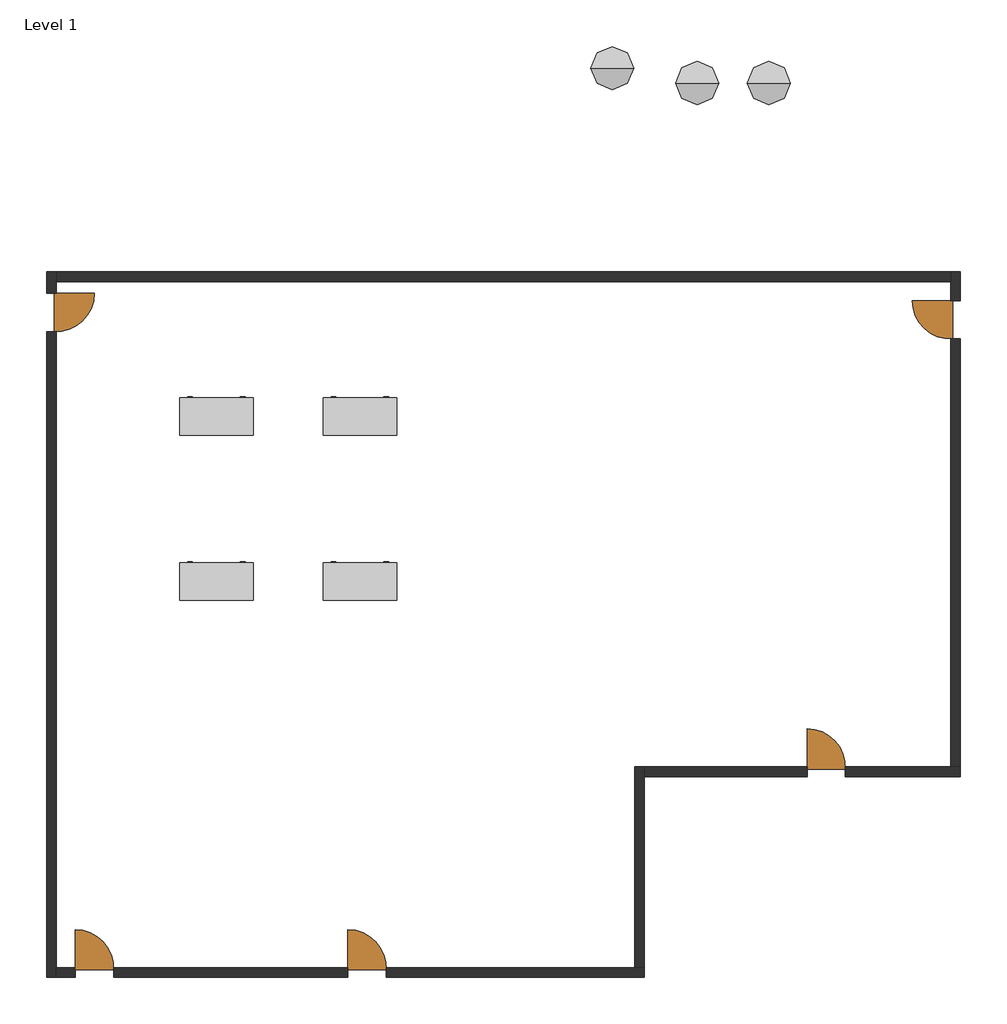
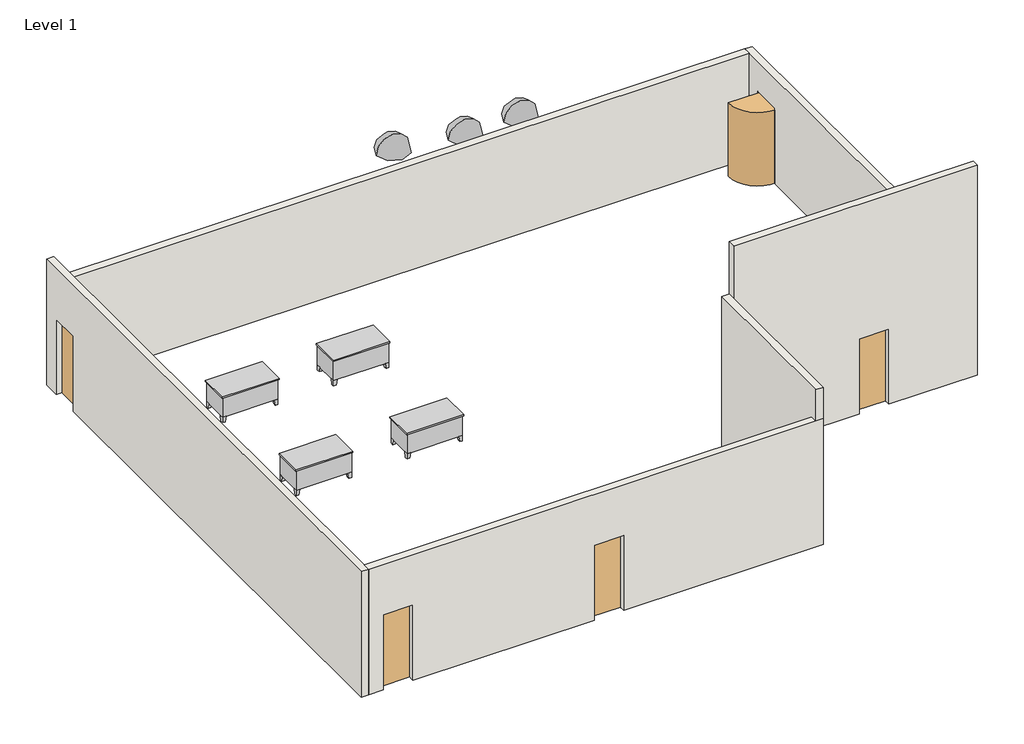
# One storey: 10 doors, 6 walls, 4 furniture elements, 3 geographic elements.
"""IFC4 building model written with IfcOpenShell, lengths in millimetres."""

import ifcopenshell
import ifcopenshell.guid

model = None  # the IFC model being written
_history = None  # IfcOwnerHistory: only IFC2X3 demands one
_inside = {}  # id of a spatial element -> (the spatial element, [elements in it])
_under = {}  # id of a project, library or spatial element -> (it, [spatial elements below it])
_declared = {}  # id of a project -> (the project, [libraries it declares])
_typed = {}  # id of a type object -> (the type object, [elements of that type])
_made_of = {}  # id of a material, layer set ... -> (it, [elements and type objects made of it])


def new_model(schema):
    """Start an empty IFC model of exactly this schema.

    Asked for "IFC4X3", IfcOpenShell would pick the latest addendum, in which some entities
    have other attributes; the version numbers below select the first issue.
    IFC2X3 requires an IfcOwnerHistory on every rooted entity: one is made here for all.
    """
    global model, _history
    if schema == "IFC4X3":
        model = ifcopenshell.file(schema_version=(4, 3, 0, 0))
    else:
        model = ifcopenshell.file(schema=schema)
    _inside.clear()
    _under.clear()
    _declared.clear()
    _typed.clear()
    _made_of.clear()
    _history = None
    if model.schema == "IFC2X3":
        org = make("IfcOrganization", Name="unknown")
        user = make(
            "IfcPersonAndOrganization",
            ThePerson=make("IfcPerson", FamilyName="unknown"),
            TheOrganization=org,
        )
        app = make(
            "IfcApplication",
            ApplicationDeveloper=org,
            Version="unknown",
            ApplicationFullName="unknown",
            ApplicationIdentifier="unknown",
        )
        _history = make(
            "IfcOwnerHistory",
            OwningUser=user,
            OwningApplication=app,
            ChangeAction="ADDED",
            CreationDate=0,
        )
    return model


def make(cls, **values):
    """One entity of the class cls with the attributes given. An attribute that is None is left unset."""
    return model.create_entity(
        cls, **{name: value for name, value in values.items() if value is not None}
    )


def rooted(cls, **values):
    """An entity with a GlobalId (a new one), such as an element, a storey or a relation."""
    return make(cls, GlobalId=ifcopenshell.guid.new(), OwnerHistory=_history, **values)


def si_unit(unit_type, name, prefix=None):
    """IfcSIUnit, for example si_unit("LENGTHUNIT", "METRE", prefix="MILLI")."""
    return make("IfcSIUnit", UnitType=unit_type, Prefix=prefix, Name=name)


def assignment(units):
    """IfcUnitAssignment: the units of a project."""
    return None if units is None else make("IfcUnitAssignment", Units=units)


def point(xyz):
    """IfcCartesianPoint."""
    return None if xyz is None else make("IfcCartesianPoint", Coordinates=xyz)


def direction(xyz):
    """IfcDirection."""
    return None if xyz is None else make("IfcDirection", DirectionRatios=xyz)


def frame(location, z_axis=None, x_axis=None):
    """IfcAxis2Placement3D, a coordinate frame: its origin and axes. An axis left out is left unset."""
    return make(
        "IfcAxis2Placement3D",
        Location=point(location),
        Axis=direction(z_axis),
        RefDirection=direction(x_axis),
    )


def frame_2d(location, x_axis=None):
    """IfcAxis2Placement2D, a coordinate frame in the plane: its origin and x axis."""
    return make(
        "IfcAxis2Placement2D", Location=point(location), RefDirection=direction(x_axis)
    )


def origin():
    """The frame at (0, 0, 0) with its axes left unset."""
    return frame((0.0, 0.0, 0.0))


def origin_with_axes():
    """The frame at (0, 0, 0) with the z axis (0, 0, 1) and the x axis (1, 0, 0) written out."""
    return frame((0.0, 0.0, 0.0), z_axis=(0.0, 0.0, 1.0), x_axis=(1.0, 0.0, 0.0))


def place(relative_to, where):
    """IfcLocalPlacement: puts the frame where relative to a parent placement (None: the world)."""
    return make(
        "IfcLocalPlacement", PlacementRelTo=relative_to, RelativePlacement=where
    )


def context(
    kind, dimensions, precision=None, world=None, true_north=None, identifier=None
):
    """IfcGeometricRepresentationContext, for example the 3D "Model" context."""
    return make(
        "IfcGeometricRepresentationContext",
        ContextIdentifier=identifier,
        ContextType=kind,
        CoordinateSpaceDimension=dimensions,
        Precision=precision,
        WorldCoordinateSystem=world,
        TrueNorth=true_north,
    )


def project(units=None, contexts=None):
    """IfcProject with its units and contexts."""
    return rooted(
        "IfcProject",
        Name="project",
        RepresentationContexts=contexts,
        UnitsInContext=assignment(units),
    )


def spatial(cls, under=None, at=None, **own):
    """A site, building, storey or space (cls), placed at a placement, below another one or the project."""
    s = rooted(cls, ObjectPlacement=at, **own)
    if under is not None:
        _under.setdefault(under.id(), (under, []))[1].append(s)
    return s


def polyline(points):
    """IfcPolyline through the points."""
    return make("IfcPolyline", Points=[point(p) for p in points])


def circle_curve(where, radius):
    """IfcCircle in the frame where."""
    return make("IfcCircle", Position=where, Radius=radius)


def ellipse_curve(where, semi_axis1, semi_axis2):
    """IfcEllipse in the frame where."""
    return make(
        "IfcEllipse", Position=where, SemiAxis1=semi_axis1, SemiAxis2=semi_axis2
    )


def trimmed(basis, trim1, trim2, sense, master):
    """IfcTrimmedCurve: the piece of a basis curve between two trims."""
    return make(
        "IfcTrimmedCurve",
        BasisCurve=basis,
        Trim1=trim1,
        Trim2=trim2,
        SenseAgreement=sense,
        MasterRepresentation=master,
    )


def segment(curve, same_sense, transition):
    """IfcCompositeCurveSegment."""
    return make(
        "IfcCompositeCurveSegment",
        Transition=transition,
        SameSense=same_sense,
        ParentCurve=curve,
    )


def composite_curve(segments, self_intersect=None):
    """IfcCompositeCurve: segments joined end to end."""
    return make("IfcCompositeCurve", Segments=segments, SelfIntersect=self_intersect)


def outline(outer, holes=None, kind="AREA"):
    """IfcArbitraryClosedProfileDef: a profile drawn as a closed curve; with holes, ...WithVoids."""
    if holes is None:
        return make("IfcArbitraryClosedProfileDef", ProfileType=kind, OuterCurve=outer)
    return make(
        "IfcArbitraryProfileDefWithVoids",
        ProfileType=kind,
        OuterCurve=outer,
        InnerCurves=holes,
    )


def extrude(swept, where, along, depth):
    """IfcExtrudedAreaSolid: the profile swept, set in the frame where, extruded along a direction by depth."""
    return make(
        "IfcExtrudedAreaSolid",
        SweptArea=swept,
        Position=where,
        ExtrudedDirection=direction(along),
        Depth=depth,
    )


def faces_of(points, faces, orient=None, outer=None):
    """IfcFace entities. A face is a list of loops; a loop is a list of indices into points, from 0.

    orient and outer hold one flag for each loop. By default every Orientation is true, the
    first loop of a face is its IfcFaceOuterBound and the others are IfcFaceBound.
    """
    made = []
    for i, loops in enumerate(faces):
        bounds = []
        for j, loop in enumerate(loops):
            is_outer = j == 0 if outer is None else outer[i][j]
            bounds.append(
                make(
                    "IfcFaceOuterBound" if is_outer else "IfcFaceBound",
                    Bound=make("IfcPolyLoop", Polygon=[points[k] for k in loop]),
                    Orientation=True if orient is None else orient[i][j],
                )
            )
        made.append(make("IfcFace", Bounds=bounds))
    return made


def faceted_brep(points, faces, orient=None, outer=None, voids=None):
    """IfcFacetedBrep: a solid bounded by flat faces; with voids (closed shells), ...WithVoids."""
    shared = [point(p) for p in points]
    hull = make("IfcClosedShell", CfsFaces=faces_of(shared, faces, orient, outer))
    if voids is None:
        return make("IfcFacetedBrep", Outer=hull)
    return make(
        "IfcFacetedBrepWithVoids",
        Outer=hull,
        Voids=[
            make(cls, CfsFaces=faces_of(shared, fs, o, b)) for cls, fs, o, b in voids
        ],
    )


def shape(context_of_items, identifier, shape_type, items):
    """IfcShapeRepresentation: the items that make up one representation, for example the "Body"."""
    return make(
        "IfcShapeRepresentation",
        ContextOfItems=context_of_items,
        RepresentationIdentifier=identifier,
        RepresentationType=shape_type,
        Items=items,
    )


def source(mapping_origin, context_of_items, identifier, shape_type, items):
    """IfcRepresentationMap: a shape defined once, which mapped items show again and again."""
    return make(
        "IfcRepresentationMap",
        MappingOrigin=mapping_origin,
        MappedRepresentation=shape(context_of_items, identifier, shape_type, items),
    )


def transform(
    local_origin,
    x_axis=None,
    y_axis=None,
    z_axis=None,
    scale=None,
    scale2=None,
    scale3=None,
    uniform=True,
):
    """IfcCartesianTransformationOperator3D, or its non-uniform kind. x_axis, y_axis, z_axis: its Axis1, 2, 3."""
    if uniform:
        return make(
            "IfcCartesianTransformationOperator3D",
            Axis1=direction(x_axis),
            Axis2=direction(y_axis),
            LocalOrigin=point(local_origin),
            Scale=scale,
            Axis3=direction(z_axis),
        )
    return make(
        "IfcCartesianTransformationOperator3DnonUniform",
        Axis1=direction(x_axis),
        Axis2=direction(y_axis),
        LocalOrigin=point(local_origin),
        Scale=scale,
        Axis3=direction(z_axis),
        Scale2=scale2,
        Scale3=scale3,
    )


def mapped(mapping_source, mapping_target):
    """IfcMappedItem: shows the shape of a source again, moved by a transform."""
    return make(
        "IfcMappedItem", MappingSource=mapping_source, MappingTarget=mapping_target
    )


def made_of(thing, what):
    """Note that an element or type object is made of a material, layer set ...; save() writes the relation."""
    if what is not None:
        _made_of.setdefault(what.id(), (what, []))[1].append(thing)
    return thing


def element(
    cls,
    number,
    at=None,
    inside=None,
    cuts=None,
    type_object=None,
    material=None,
    context=None,
    identifier="Body",
    shape_type=None,
    held_by="IfcProductDefinitionShape",
    body=None,
    shapes=None,
    **own,
):
    """One element of the class cls, such as IfcWall. Its Tag is "e" and its number.

    at: its placement. inside: the storey or other place that contains it. cuts: it is an
    opening in that element (IfcRelVoidsElement). A single representation is given by context,
    identifier, shape_type and body (its items); several are given by shapes. held_by: the class
    of the entity that holds the representations. save() writes the other relations.
    """
    e = rooted(cls, Tag="e%d" % number, ObjectPlacement=at, **own)
    if body is not None:
        shapes = [shape(context, identifier, shape_type, body)]
    if shapes is not None:
        e.Representation = make(held_by, Representations=shapes)
    if inside is not None:
        _inside.setdefault(inside.id(), (inside, []))[1].append(e)
    if cuts is not None:
        rooted(
            "IfcRelVoidsElement", RelatingBuildingElement=cuts, RelatedOpeningElement=e
        )
    if type_object is not None:
        _typed.setdefault(type_object.id(), (type_object, []))[1].append(e)
    return made_of(e, material)


def aggregate(whole, parts):
    """IfcRelAggregates: a whole, such as a stair, and the parts it consists of."""
    return rooted("IfcRelAggregates", RelatingObject=whole, RelatedObjects=parts)


def save(model, path):
    """Write the relations noted so far, then the file.

    IfcRelAggregates (storeys below a building ...), IfcRelContainedInSpatialStructure (elements
    in a storey), IfcRelDefinesByType, IfcRelAssociatesMaterial and IfcRelDeclares: one each for
    every whole, place, type object, material and project.
    """
    for whole, parts in _under.values():
        aggregate(whole, parts)
    for where, things in _inside.values():
        rooted(
            "IfcRelContainedInSpatialStructure",
            RelatedElements=things,
            RelatingStructure=where,
        )
    for kind, things in _typed.values():
        rooted("IfcRelDefinesByType", RelatedObjects=things, RelatingType=kind)
    for what, things in _made_of.values():
        rooted("IfcRelAssociatesMaterial", RelatedObjects=things, RelatingMaterial=what)
    for by, libraries in _declared.values():
        rooted("IfcRelDeclares", RelatingContext=by, RelatedDefinitions=libraries)
    model.write(path)


def plane_surface(at):
    """IfcPlane: the flat surface through the origin of the frame at, square to its z axis."""
    return make("IfcPlane", Position=at)


def revolved_surface(curve, axis_point, axis_direction):
    """IfcSurfaceOfRevolution: the curve turned about the line through axis_point along axis_direction."""
    return make(
        "IfcSurfaceOfRevolution",
        SweptCurve=make("IfcArbitraryOpenProfileDef", ProfileType="CURVE", Curve=curve),
        AxisPosition=make("IfcAxis1Placement", Location=point(axis_point), Axis=direction(axis_direction)),
    )


def advanced_brep(points, edges, surfaces, faces):
    """IfcAdvancedBrep: a solid bounded by faces that lie on surfaces and meet in shared edges.

    An edge is (start, end): straight between two places in points (the first is 0);
    or (start, end, curve); or (start, end, curve, False) where it runs against its curve.
    A face is (place in surfaces, loops), or (place, loops, False) where it looks against
    its surface's normal. A loop lists edges by number (the first is 1), with a minus sign
    where the edge is run from its end to its start. The first loop is the outer one.
    """
    corners = [point(p) for p in points]
    vertices = [make("IfcVertexPoint", VertexGeometry=c) for c in corners]
    made = []
    for start, end, *more in edges:
        made.append(
            make(
                "IfcEdgeCurve",
                EdgeStart=vertices[start],
                EdgeEnd=vertices[end],
                EdgeGeometry=more[0] if more else make("IfcPolyline", Points=[corners[start], corners[end]]),
                SameSense=more[1] if len(more) > 1 else True,
            )
        )
    hull = []
    for where, loops, *sense in faces:
        bounds = []
        for j, loop in enumerate(loops):
            ring = [make("IfcOrientedEdge", EdgeElement=made[abs(k) - 1], Orientation=k > 0) for k in loop]
            bounds.append(
                make(
                    "IfcFaceOuterBound" if j == 0 else "IfcFaceBound",
                    Bound=make("IfcEdgeLoop", EdgeList=ring),
                    Orientation=True,
                )
            )
        hull.append(make("IfcAdvancedFace", Bounds=bounds, FaceSurface=surfaces[where], SameSense=sense[0] if sense else True))
    return make("IfcAdvancedBrep", Outer=make("IfcClosedShell", CfsFaces=hull))


def door_partition_swing_single_wh_interior_b90220fa(model_context):
    return source(origin(), model_context, "Body", "SweptSolid", [
        extrude(outline(composite_curve([segment(polyline([(-388.0346798, 57.15), (-388.0346798, 101.6), (-388.0346798, 914.4)]), True, "CONTINUOUS"), segment(trimmed(circle_curve(frame_2d((-388.0346798, 101.6)), 812.8), [point((-388.0346798, 914.4))], [point((423.5489803, 57.15))], False, "CARTESIAN"), True, "CONTINUOUS"), segment(polyline([(423.5489803, 57.15), (-388.0346798, 57.15)]), True, "CONTINUOUS")], self_intersect=False)), origin_with_axes(), (0.0, 0.0, 1.0), 2133.6),
    ])


def door_partition_swing_single_wh_interior_069734b8(model_context):
    return source(origin(), model_context, "Body", "SweptSolid", [
        extrude(outline(composite_curve([segment(polyline([(-388.0346798, -57.15), (423.5489803, -57.15)]), True, "CONTINUOUS"), segment(trimmed(circle_curve(frame_2d((-388.0346798, -101.6)), 812.8), [point((423.5489803, -57.15))], [point((-388.0346798, -914.4))], False, "CARTESIAN"), True, "CONTINUOUS"), segment(polyline([(-388.0346798, -914.4), (-388.0346798, -101.6), (-388.0346798, -57.15)]), True, "CONTINUOUS")], self_intersect=False)), origin_with_axes(), (0.0, 0.0, 1.0), 2133.6),
    ])


def pnl_pf_pnl_pf_4_cdf92fc8(model_context):
    return source(origin(), model_context, "Body", "SweptSolid", [
        extrude(outline(polyline([(812.8, -44.45), (0.0, -44.45), (0.0, 0.0), (812.8, 0.0), (812.8, -44.45)])), origin_with_axes(), (0.0, 0.0, 1.0), 2133.6),
    ])


def pnl_pf_pnl_pf_4_b2a4cf2d(model_context):
    return source(origin(), model_context, "Body", "SweptSolid", [
        extrude(outline(polyline([(812.8, 44.45), (812.8, 0.0), (0.0, 0.0), (0.0, 44.45), (812.8, 44.45)])), origin_with_axes(), (0.0, 0.0, 1.0), 2133.6),
    ])


def furniture_072f6425(model_context):
    return source(origin(), model_context, "Body", "SolidModel", [
        extrude(outline(polyline([(1504.95, 762.0), (1136.65, 762.0), (1136.65, 774.7), (1504.95, 774.7), (1504.95, 762.0)])), frame((0.0, 0.0, 603.25), z_axis=(0.0, 0.0, 1.0), x_axis=(1.0, 0.0, 0.0)), (0.0, 0.0, 1.0), 101.6),
        extrude(outline(polyline([(1504.95, 762.0), (1136.65, 762.0), (1136.65, 774.7), (1504.95, 774.7), (1504.95, 762.0)])), frame((0.0, 0.0, 171.45), z_axis=(0.0, 0.0, 1.0), x_axis=(1.0, 0.0, 0.0)), (0.0, 0.0, 1.0), 412.75),
        extrude(outline(polyline([(387.35, 762.0), (19.05, 762.0), (19.05, 774.7), (387.35, 774.7), (387.35, 762.0)])), frame((0.0, 0.0, 603.25), z_axis=(0.0, 0.0, 1.0), x_axis=(1.0, 0.0, 0.0)), (0.0, 0.0, 1.0), 101.6),
        extrude(outline(polyline([(387.35, 762.0), (19.05, 762.0), (19.05, 774.7), (387.35, 774.7), (387.35, 762.0)])), frame((0.0, 0.0, 171.45), z_axis=(0.0, 0.0, 1.0), x_axis=(1.0, 0.0, 0.0)), (0.0, 0.0, 1.0), 171.45),
        extrude(outline(polyline([(387.35, 762.0), (19.05, 762.0), (19.05, 774.7), (387.35, 774.7), (387.35, 762.0)])), frame((0.0, 0.0, 482.6), z_axis=(0.0, 0.0, 1.0), x_axis=(1.0, 0.0, 0.0)), (0.0, 0.0, 1.0), 101.6),
        extrude(outline(polyline([(387.35, 762.0), (19.05, 762.0), (19.05, 774.7), (387.35, 774.7), (387.35, 762.0)])), frame((0.0, 0.0, 361.95), z_axis=(0.0, 0.0, 1.0), x_axis=(1.0, 0.0, 0.0)), (0.0, 0.0, 1.0), 101.6),
        faceted_brep([(1422.4, 762.0, 152.4), (1422.4, 660.4, 152.4), (1524.0, 660.4, 152.4), (1524.0, 762.0, 152.4), (1447.8, 762.0, 0.0), (1524.0, 762.0, 0.0), (1524.0, 685.8, 0.0), (1447.8, 685.8, 0.0)], [[[0, 1, 2, 3]], [[4, 5, 6, 7]], [[4, 7, 1, 0]], [[7, 6, 2, 1]], [[6, 5, 3, 2]], [[5, 4, 0, 3]]]),
        faceted_brep([(1422.4, 0.0, 152.4), (1524.0, 0.0, 152.4), (1524.0, 101.6, 152.4), (1422.4, 101.6, 152.4), (1447.8, 0.0, 0.0), (1447.8, 76.2, 0.0), (1524.0, 76.2, 0.0), (1524.0, 0.0, 0.0)], [[[0, 1, 2, 3]], [[4, 5, 6, 7]], [[4, 7, 1, 0]], [[7, 6, 2, 1]], [[6, 5, 3, 2]], [[5, 4, 0, 3]]]),
        faceted_brep([(101.6, 0.0, 152.4), (101.6, 101.6, 152.4), (0.0, 101.6, 152.4), (0.0, 0.0, 152.4), (76.2, 0.0, 0.0), (0.0, 0.0, 0.0), (0.0, 76.2, 0.0), (76.2, 76.2, 0.0)], [[[0, 1, 2, 3]], [[4, 5, 6, 7]], [[4, 7, 1, 0]], [[7, 6, 2, 1]], [[6, 5, 3, 2]], [[5, 4, 0, 3]]]),
        faceted_brep([(101.6, 762.0, 152.4), (0.0, 762.0, 152.4), (0.0, 660.4, 152.4), (101.6, 660.4, 152.4), (76.2, 762.0, 0.0), (76.2, 685.8, 0.0), (0.0, 685.8, 0.0), (0.0, 762.0, 0.0)], [[[0, 1, 2, 3]], [[4, 5, 6, 7]], [[4, 7, 1, 0]], [[7, 6, 2, 1]], [[6, 5, 3, 2]], [[5, 4, 0, 3]]]),
        extrude(outline(polyline([(1543.05, 781.05), (1543.05, -19.05), (-19.05, -19.05), (-19.05, 781.05), (1543.05, 781.05)])), frame((0.0, 0.0, 723.9), z_axis=(0.0, 0.0, 1.0), x_axis=(1.0, 0.0, 0.0)), (0.0, 0.0, 1.0), 38.1),
        extrude(outline(polyline([(406.4, 762.0), (406.4, 50.8), (1117.6, 50.8), (1117.6, 762.0), (1524.0, 762.0), (1524.0, 0.0), (0.0, 0.0), (0.0, 762.0), (406.4, 762.0)])), frame((0.0, 0.0, 152.4), z_axis=(0.0, 0.0, 1.0), x_axis=(1.0, 0.0, 0.0)), (0.0, 0.0, 1.0), 571.5),
        faceted_brep([(1365.25, 774.7, 546.1), (1365.25, 774.7, 533.4), (1371.6, 774.7, 533.4), (1371.6, 774.7, 546.1), (1365.25, 793.75, 546.1), (1365.25, 793.75, 533.4), (1371.6, 800.1, 533.4), (1371.6, 800.1, 546.1), (1276.35, 793.75, 546.1), (1276.35, 793.75, 533.4), (1270.0, 800.1, 533.4), (1270.0, 800.1, 546.1), (1276.35, 774.7, 546.1), (1270.0, 774.7, 546.1), (1270.0, 774.7, 533.4), (1276.35, 774.7, 533.4)], [[[0, 1, 2, 3]], [[1, 0, 4, 5]], [[2, 1, 5, 6]], [[3, 2, 6, 7]], [[0, 3, 7, 4]], [[5, 4, 8, 9]], [[6, 5, 9, 10]], [[7, 6, 10, 11]], [[4, 7, 11, 8]], [[12, 13, 14, 15]], [[9, 8, 12, 15]], [[10, 9, 15, 14]], [[11, 10, 14, 13]], [[8, 11, 13, 12]]]),
        faceted_brep([(1365.25, 774.7, 666.75), (1365.25, 774.7, 654.05), (1371.6, 774.7, 654.05), (1371.6, 774.7, 666.75), (1365.25, 793.75, 666.75), (1365.25, 793.75, 654.05), (1371.6, 800.1, 654.05), (1371.6, 800.1, 666.75), (1276.35, 793.75, 666.75), (1276.35, 793.75, 654.05), (1270.0, 800.1, 654.05), (1270.0, 800.1, 666.75), (1276.35, 774.7, 666.75), (1270.0, 774.7, 666.75), (1270.0, 774.7, 654.05), (1276.35, 774.7, 654.05)], [[[0, 1, 2, 3]], [[1, 0, 4, 5]], [[2, 1, 5, 6]], [[3, 2, 6, 7]], [[0, 3, 7, 4]], [[5, 4, 8, 9]], [[6, 5, 9, 10]], [[7, 6, 10, 11]], [[4, 7, 11, 8]], [[12, 13, 14, 15]], [[9, 8, 12, 15]], [[10, 9, 15, 14]], [[11, 10, 14, 13]], [[8, 11, 13, 12]]]),
        faceted_brep([(158.75, 774.7, 304.8), (152.4, 774.7, 304.8), (152.4, 774.7, 292.1), (158.75, 774.7, 292.1), (158.75, 793.75, 304.8), (152.4, 800.1, 304.8), (152.4, 800.1, 292.1), (158.75, 793.75, 292.1), (247.65, 793.75, 304.8), (254.0, 800.1, 304.8), (254.0, 800.1, 292.1), (247.65, 793.75, 292.1), (247.65, 774.7, 304.8), (247.65, 774.7, 292.1), (254.0, 774.7, 292.1), (254.0, 774.7, 304.8)], [[[0, 1, 2, 3]], [[1, 0, 4, 5]], [[2, 1, 5, 6]], [[3, 2, 6, 7]], [[0, 3, 7, 4]], [[5, 4, 8, 9]], [[6, 5, 9, 10]], [[7, 6, 10, 11]], [[4, 7, 11, 8]], [[12, 13, 14, 15]], [[9, 8, 12, 15]], [[10, 9, 15, 14]], [[11, 10, 14, 13]], [[8, 11, 13, 12]]]),
        faceted_brep([(158.75, 774.7, 425.45), (152.4, 774.7, 425.45), (152.4, 774.7, 412.75), (158.75, 774.7, 412.75), (158.75, 793.75, 425.45), (152.4, 800.1, 425.45), (152.4, 800.1, 412.75), (158.75, 793.75, 412.75), (247.65, 793.75, 425.45), (254.0, 800.1, 425.45), (254.0, 800.1, 412.75), (247.65, 793.75, 412.75), (247.65, 774.7, 425.45), (247.65, 774.7, 412.75), (254.0, 774.7, 412.75), (254.0, 774.7, 425.45)], [[[0, 1, 2, 3]], [[1, 0, 4, 5]], [[2, 1, 5, 6]], [[3, 2, 6, 7]], [[0, 3, 7, 4]], [[5, 4, 8, 9]], [[6, 5, 9, 10]], [[7, 6, 10, 11]], [[4, 7, 11, 8]], [[12, 13, 14, 15]], [[9, 8, 12, 15]], [[10, 9, 15, 14]], [[11, 10, 14, 13]], [[8, 11, 13, 12]]]),
        faceted_brep([(158.75, 774.7, 546.1), (152.4, 774.7, 546.1), (152.4, 774.7, 533.4), (158.75, 774.7, 533.4), (158.75, 793.75, 546.1), (152.4, 800.1, 546.1), (152.4, 800.1, 533.4), (158.75, 793.75, 533.4), (247.65, 793.75, 546.1), (254.0, 800.1, 546.1), (254.0, 800.1, 533.4), (247.65, 793.75, 533.4), (247.65, 774.7, 546.1), (247.65, 774.7, 533.4), (254.0, 774.7, 533.4), (254.0, 774.7, 546.1)], [[[0, 1, 2, 3]], [[1, 0, 4, 5]], [[2, 1, 5, 6]], [[3, 2, 6, 7]], [[0, 3, 7, 4]], [[5, 4, 8, 9]], [[6, 5, 9, 10]], [[7, 6, 10, 11]], [[4, 7, 11, 8]], [[12, 13, 14, 15]], [[9, 8, 12, 15]], [[10, 9, 15, 14]], [[11, 10, 14, 13]], [[8, 11, 13, 12]]]),
        faceted_brep([(158.75, 774.7, 666.75), (152.4, 774.7, 666.75), (152.4, 774.7, 654.05), (158.75, 774.7, 654.05), (158.75, 793.75, 666.75), (152.4, 800.1, 666.75), (152.4, 800.1, 654.05), (158.75, 793.75, 654.05), (247.65, 793.75, 666.75), (254.0, 800.1, 666.75), (254.0, 800.1, 654.05), (247.65, 793.75, 654.05), (247.65, 774.7, 666.75), (247.65, 774.7, 654.05), (254.0, 774.7, 654.05), (254.0, 774.7, 666.75)], [[[0, 1, 2, 3]], [[1, 0, 4, 5]], [[2, 1, 5, 6]], [[3, 2, 6, 7]], [[0, 3, 7, 4]], [[5, 4, 8, 9]], [[6, 5, 9, 10]], [[7, 6, 10, 11]], [[4, 7, 11, 8]], [[12, 13, 14, 15]], [[9, 8, 12, 15]], [[10, 9, 15, 14]], [[11, 10, 14, 13]], [[8, 11, 13, 12]]]),
    ])


def geographic_element_e8c3bac9(model_context):
    return source(origin(), model_context, "Body", "AdvancedBrep", [
        advanced_brep(
        [(-457.2, 0.0, 0.0), (457.2, 0.0, 0.0), (0.0, 0.0, 0.0), (0.0, 0.0, 457.2)],
        [
            (0, 1, circle_curve(frame((0.0, 0.0, 0.0), z_axis=(0.0, 0.0, -1.0), x_axis=(1.0, 0.0, 0.0)), 457.2)),
            (1, 2),
            (2, 0),
            (1, 0, circle_curve(frame((0.0, 0.0, 0.0), z_axis=(0.0, 0.0, -1.0), x_axis=(1.0, 0.0, 0.0)), 457.2)),
            (3, 1, circle_curve(frame((0.0, 0.0, 0.0), z_axis=(0.0, 1.0, 0.0), x_axis=(1.0, 0.0, 0.0)), 457.2)),
            (0, 3, circle_curve(frame((0.0, 0.0, 0.0), z_axis=(0.0, 1.0, 0.0), x_axis=(-1.0, 0.0, 0.0)), 457.2)),
        ],
        [
            plane_surface(frame((0.0, 0.0, 0.0), z_axis=(0.0, 0.0, -1.0), x_axis=(1.0, 0.0, 0.0))),
            revolved_surface(trimmed(ellipse_curve(frame((0.0, 0.0, 0.0), z_axis=(0.0, -1.0, 0.0), x_axis=(1.0, 0.0, 0.0)), 457.2, 457.2), [point((457.2, 0.0, 0.0))], [point((0.0, 0.0, 457.2))], True, "CARTESIAN"), (0.0, 0.0, 0.0), (0.0, 0.0, 1.0)),
        ],
        [
            (0, [[1, 2, 3]]),
            (0, [[4, -3, -2]]),
            (1, [[5, -1, 6]]),
            (1, [[-6, -4, -5]]),
        ],
    ),
    ])


model = new_model("IFC4")

# Units and contexts
model_context = context("Model", 3, world=origin())
ifc_project = project(units=[si_unit("LENGTHUNIT", "METRE", prefix="MILLI")], contexts=[model_context])

# Site, building, storey
site = spatial("IfcSite", under=ifc_project)
building = spatial("IfcBuilding", under=site)
storey = spatial("IfcBuildingStorey", under=building, Name="Level 1", Elevation=0.0)

# Doors
placement = place(None, origin())
door_partition_swing_single_wh_interior_shape = door_partition_swing_single_wh_interior_b90220fa(model_context)
element("IfcDoor", 1, ObjectType="Door_Partition_Swing_Single_WH : Interior", at=placement, inside=storey, context=model_context, shape_type="MappedRepresentation", body=[
    mapped(door_partition_swing_single_wh_interior_shape, transform((-7092.2672395, -6001.280369, 0.0), x_axis=(1.0, 0.0, 0.0), y_axis=(0.0, 1.0, 0.0), z_axis=(0.0, 0.0, 1.0))),
])
element("IfcDoor", 2, ObjectType="Door_Partition_Swing_Single_WH : Interior", at=placement, inside=storey, context=model_context, shape_type="MappedRepresentation", body=[
    mapped(door_partition_swing_single_wh_interior_shape, transform((2661.3327605, -1734.080369, 0.0), x_axis=(1.0, 0.0, 0.0), y_axis=(0.0, 1.0, 0.0), z_axis=(0.0, 0.0, 1.0))),
])
element("IfcDoor", 3, ObjectType="Door_Partition_Swing_Single_WH : Interior", at=placement, inside=storey, context=model_context, shape_type="MappedRepresentation", body=[
    mapped(door_partition_swing_single_wh_interior_shape, transform((-13779.5019194, 8037.8849511, 0.0), x_axis=(0.0, -1.0, 0.0), y_axis=(1.0, 0.0, 0.0), z_axis=(0.0, 0.0, 1.0))),
])
element("IfcDoor", 4, ObjectType="Door_Partition_Swing_Single_WH : Interior", at=placement, inside=storey, context=model_context, shape_type="MappedRepresentation", body=[
    mapped(door_partition_swing_single_wh_interior_shape, transform((-12883.4672395, -6001.280369, 0.0), x_axis=(1.0, 0.0, 0.0), y_axis=(0.0, 1.0, 0.0), z_axis=(0.0, 0.0, 1.0))),
])
door_partition_swing_single_wh_interior_2_shape = door_partition_swing_single_wh_interior_069734b8(model_context)
element("IfcDoor", 5, ObjectType="Door_Partition_Swing_Single_WH : Interior", at=placement, inside=storey, context=model_context, shape_type="MappedRepresentation", body=[
    mapped(door_partition_swing_single_wh_interior_2_shape, transform((5422.8980806, 7885.4849511, 0.0), x_axis=(0.0, -1.0, 0.0), y_axis=(1.0, 0.0, 0.0), z_axis=(0.0, 0.0, 1.0))),
])
pnl_pf_pnl_pf_4_shape = pnl_pf_pnl_pf_4_cdf92fc8(model_context)
element("IfcDoor", 6, ObjectType="Pnl_PF : Pnl_PF 4", at=placement, inside=storey, context=model_context, shape_type="MappedRepresentation", body=[
    mapped(pnl_pf_pnl_pf_4_shape, transform((-7480.3019194, -5899.680369, 0.0), x_axis=(1.0, 0.0, 0.0), y_axis=(0.0, 1.0, 0.0), z_axis=(0.0, 0.0, 1.0))),
])
element("IfcDoor", 7, ObjectType="Pnl_PF : Pnl_PF 4", at=placement, inside=storey, context=model_context, shape_type="MappedRepresentation", body=[
    mapped(pnl_pf_pnl_pf_4_shape, transform((-13271.5019194, -5899.680369, 0.0), x_axis=(1.0, 0.0, 0.0), y_axis=(0.0, 1.0, 0.0), z_axis=(0.0, 0.0, 1.0))),
])
element("IfcDoor", 8, ObjectType="Pnl_PF : Pnl_PF 4", at=placement, inside=storey, context=model_context, shape_type="MappedRepresentation", body=[
    mapped(pnl_pf_pnl_pf_4_shape, transform((-13677.9019194, 8425.919631, 0.0), x_axis=(0.0, -1.0, 0.0), y_axis=(1.0, 0.0, 0.0), z_axis=(0.0, 0.0, 1.0))),
])
element("IfcDoor", 9, ObjectType="Pnl_PF : Pnl_PF 4", at=placement, inside=storey, context=model_context, shape_type="MappedRepresentation", body=[
    mapped(pnl_pf_pnl_pf_4_shape, transform((2273.2980806, -1632.480369, 0.0), x_axis=(1.0, 0.0, 0.0), y_axis=(0.0, 1.0, 0.0), z_axis=(0.0, 0.0, 1.0))),
])
pnl_pf_pnl_pf_4_2_shape = pnl_pf_pnl_pf_4_b2a4cf2d(model_context)
element("IfcDoor", 10, ObjectType="Pnl_PF : Pnl_PF 4", at=placement, inside=storey, context=model_context, shape_type="MappedRepresentation", body=[
    mapped(pnl_pf_pnl_pf_4_2_shape, transform((5321.2980806, 8273.519631, 0.0), x_axis=(0.0, -1.0, 0.0), y_axis=(1.0, 0.0, 0.0), z_axis=(0.0, 0.0, 1.0))),
])

# Furniture
furniture_shape = furniture_072f6425(model_context)
element("IfcFurniture", 11, ObjectType="Desk : 60\" x 30\"", at=placement, inside=storey, context=model_context, shape_type="MappedRepresentation", body=[
    mapped(furniture_shape, transform((-11036.3019194, 5428.719631, 0.0), x_axis=(1.0, 0.0, 0.0), y_axis=(0.0, 1.0, 0.0), z_axis=(0.0, 0.0, 1.0))),
])
element("IfcFurniture", 12, ObjectType="Desk : 60\" x 30\"", at=placement, inside=storey, context=model_context, shape_type="MappedRepresentation", body=[
    mapped(furniture_shape, transform((-11036.3019194, 1923.519631, 0.0), x_axis=(1.0, 0.0, 0.0), y_axis=(0.0, 1.0, 0.0), z_axis=(0.0, 0.0, 1.0))),
])
element("IfcFurniture", 13, ObjectType="Desk : 60\" x 30\"", at=placement, inside=storey, context=model_context, shape_type="MappedRepresentation", body=[
    mapped(furniture_shape, transform((-7988.3019194, 5428.719631, 0.0), x_axis=(1.0, 0.0, 0.0), y_axis=(0.0, 1.0, 0.0), z_axis=(0.0, 0.0, 1.0))),
])
element("IfcFurniture", 14, ObjectType="Desk : 60\" x 30\"", at=placement, inside=storey, context=model_context, shape_type="MappedRepresentation", body=[
    mapped(furniture_shape, transform((-7988.3019194, 1923.519631, 0.0), x_axis=(1.0, 0.0, 0.0), y_axis=(0.0, 1.0, 0.0), z_axis=(0.0, 0.0, 1.0))),
])

# Geographic elements
geographic_element_shape = geographic_element_e8c3bac9(model_context)
element("IfcGeographicElement", 15, ObjectType="Shubbery : Shubbery", at=placement, inside=storey, context=model_context, shape_type="MappedRepresentation", body=[
    mapped(geographic_element_shape, transform((1460.4980806, 12896.319631, 0.0), x_axis=(1.0, 0.0, 0.0), y_axis=(0.0, 1.0, 0.0), z_axis=(0.0, 0.0, 1.0))),
])
element("IfcGeographicElement", 16, ObjectType="Shubbery : Shubbery", at=placement, inside=storey, context=model_context, shape_type="MappedRepresentation", body=[
    mapped(geographic_element_shape, transform((-63.5019194, 12896.319631, 0.0), x_axis=(1.0, 0.0, 0.0), y_axis=(0.0, 1.0, 0.0), z_axis=(0.0, 0.0, 1.0))),
])
element("IfcGeographicElement", 17, ObjectType="Shubbery : Shubbery", at=placement, inside=storey, context=model_context, shape_type="MappedRepresentation", body=[
    mapped(geographic_element_shape, transform((-1864.5183381, 13213.8874183, 0.0), x_axis=(1.0, 0.0, 0.0), y_axis=(0.0, 1.0, 0.0), z_axis=(0.0, 0.0, 1.0))),
])

# Walls
element("IfcWall", 18, ObjectType="Generic - 8\"", at=placement, inside=storey, context=model_context, shape_type="Brep", body=[
    faceted_brep([(-13677.9019194, -6102.880369, 0.0), (-13677.9019194, -5899.680369, 0.0), (-13677.9019194, 7613.119631, 0.0), (-13677.9019194, 7613.119631, 2184.4), (-13677.9019194, 8425.919631, 2184.4), (-13677.9019194, 8425.919631, 0.0), (-13677.9019194, 8679.919631, 0.0), (-13677.9019194, 8883.119631, 0.0), (-13677.9019194, 8883.119631, 3048.0), (-13677.9019194, 8883.119631, 3657.6), (-13677.9019194, -5899.680369, 3657.6), (-13677.9019194, -6102.880369, 3657.6), (-13881.1019194, 7613.119631, 2184.4), (-13881.1019194, 7613.119631, 0.0), (-13881.1019194, -6102.880369, 0.0), (-13881.1019194, -6102.880369, 3657.6), (-13881.1019194, 8883.119631, 3657.6), (-13881.1019194, 8883.119631, 0.0), (-13881.1019194, 8425.919631, 0.0), (-13881.1019194, 8425.919631, 2184.4)], [[[0, 1, 2, 3, 4, 5, 6, 7, 8, 9, 10, 11]], [[12, 13, 14, 15, 16, 17, 18, 19]], [[18, 17, 7, 6, 5]], [[14, 13, 2, 1, 0]], [[11, 10, 9, 16, 15]], [[0, 11, 15, 14]], [[7, 17, 16, 9, 8]], [[5, 4, 19, 18]], [[3, 2, 13, 12]], [[4, 3, 12, 19]]]),
])
element("IfcWall", 19, ObjectType="Generic - 8\"", at=placement, inside=storey, context=model_context, shape_type="SweptSolid", body=[
    extrude(outline(polyline([(5321.2980806, 8679.919631), (-13677.9019194, 8679.919631), (-13677.9019194, 8883.119631), (5321.2980806, 8883.119631), (5321.2980806, 8679.919631)])), origin_with_axes(), (0.0, 0.0, 1.0), 3048.0),
])
element("IfcWall", 20, ObjectType="Generic - 8\"", at=placement, inside=storey, context=model_context, shape_type="Brep", body=[
    faceted_brep([(-12458.7019194, -6102.880369, 2184.4), (-12458.7019194, -6102.880369, 0.0), (-7480.3019194, -6102.880369, 0.0), (-7480.3019194, -6102.880369, 2184.4), (-6667.5019194, -6102.880369, 2184.4), (-6667.5019194, -6102.880369, 0.0), (-1181.1019194, -6102.880369, 0.0), (-1181.1019194, -6102.880369, 3657.6), (-1384.3019194, -6102.880369, 3657.6), (-13677.9019194, -6102.880369, 3657.6), (-13677.9019194, -6102.880369, 0.0), (-13271.5019194, -6102.880369, 0.0), (-13271.5019194, -6102.880369, 2184.4), (-7480.3019194, -5899.680369, 0.0), (-12458.7019194, -5899.680369, 0.0), (-12458.7019194, -5899.680369, 2184.4), (-13271.5019194, -5899.680369, 2184.4), (-13271.5019194, -5899.680369, 0.0), (-13677.9019194, -5899.680369, 0.0), (-13677.9019194, -5899.680369, 3657.6), (-1384.3019194, -5899.680369, 3657.6), (-1181.1019194, -5899.680369, 3657.6), (-1181.1019194, -5899.680369, 0.0), (-1384.3019194, -5899.680369, 0.0), (-6667.5019194, -5899.680369, 0.0), (-6667.5019194, -5899.680369, 2184.4), (-7480.3019194, -5899.680369, 2184.4)], [[[0, 1, 2, 3, 4, 5, 6, 7, 8, 9, 10, 11, 12]], [[13, 14, 15, 16, 17, 18, 19, 20, 21, 22, 23, 24, 25, 26]], [[6, 5, 24, 23, 22]], [[11, 10, 18, 17]], [[2, 1, 14, 13]], [[9, 8, 7, 21, 20, 19]], [[10, 9, 19, 18]], [[7, 6, 22, 21]], [[13, 26, 3, 2]], [[25, 24, 5, 4]], [[26, 25, 4, 3]], [[17, 16, 12, 11]], [[15, 14, 1, 0]], [[16, 15, 0, 12]]]),
])
element("IfcWall", 21, ObjectType="Generic - 8\"", at=placement, inside=storey, context=model_context, shape_type="Brep", body=[
    faceted_brep([(-1181.1019194, -5899.680369, 0.0), (-1181.1019194, -1835.680369, 0.0), (-1181.1019194, -1632.480369, 0.0), (-1181.1019194, -1632.480369, 4572.0), (-1181.1019194, -6102.880369, 4572.0), (-1181.1019194, -6102.880369, 3657.6), (-1181.1019194, -5899.680369, 3657.6), (-1384.3019194, -5899.680369, 0.0), (-1384.3019194, -5899.680369, 3657.6), (-1384.3019194, -6102.880369, 3657.6), (-1384.3019194, -6102.880369, 4572.0), (-1384.3019194, -1632.480369, 4572.0), (-1384.3019194, -1632.480369, 0.0)], [[[0, 1, 2, 3, 4, 5, 6]], [[7, 8, 9, 10, 11, 12]], [[2, 1, 0, 7, 12]], [[4, 3, 11, 10]], [[3, 2, 12, 11]], [[5, 9, 8, 6]], [[0, 6, 8, 7]], [[5, 4, 10, 9]]]),
])
element("IfcWall", 22, ObjectType="Generic - 8\"", at=placement, inside=storey, context=model_context, shape_type="Brep", body=[
    faceted_brep([(3086.0980806, -1835.680369, 2184.4), (3086.0980806, -1835.680369, 0.0), (5524.4980806, -1835.680369, 0.0), (5524.4980806, -1835.680369, 6096.0), (-1181.1019194, -1835.680369, 6096.0), (-1181.1019194, -1835.680369, 0.0), (2273.2980806, -1835.680369, 0.0), (2273.2980806, -1835.680369, 2184.4), (5524.4980806, -1632.480369, 0.0), (5321.2980806, -1632.480369, 0.0), (3086.0980806, -1632.480369, 0.0), (3086.0980806, -1632.480369, 2184.4), (2273.2980806, -1632.480369, 2184.4), (2273.2980806, -1632.480369, 0.0), (-1181.1019194, -1632.480369, 0.0), (-1181.1019194, -1632.480369, 4572.0), (-1181.1019194, -1632.480369, 6096.0), (5524.4980806, -1632.480369, 6096.0), (5524.4980806, -1632.480369, 3048.0)], [[[0, 1, 2, 3, 4, 5, 6, 7]], [[8, 9, 10, 11, 12, 13, 14, 15, 16, 17, 18]], [[6, 5, 14, 13]], [[2, 1, 10, 9, 8]], [[4, 3, 17, 16]], [[5, 4, 16, 15, 14]], [[3, 2, 8, 18, 17]], [[13, 12, 7, 6]], [[11, 10, 1, 0]], [[12, 11, 0, 7]]]),
])
element("IfcWall", 23, ObjectType="Generic - 8\"", at=placement, inside=storey, context=model_context, shape_type="Brep", body=[
    faceted_brep([(5524.4980806, -1632.480369, 0.0), (5524.4980806, 7460.719631, 0.0), (5524.4980806, 7460.719631, 2184.4), (5524.4980806, 8273.519631, 2184.4), (5524.4980806, 8273.519631, 0.0), (5524.4980806, 8883.119631, 0.0), (5524.4980806, 8883.119631, 3048.0), (5524.4980806, -1632.480369, 3048.0), (5321.2980806, 7460.719631, 2184.4), (5321.2980806, 7460.719631, 0.0), (5321.2980806, -1632.480369, 0.0), (5321.2980806, -1632.480369, 3048.0), (5321.2980806, 8679.919631, 3048.0), (5321.2980806, 8883.119631, 3048.0), (5321.2980806, 8883.119631, 0.0), (5321.2980806, 8679.919631, 0.0), (5321.2980806, 8273.519631, 0.0), (5321.2980806, 8273.519631, 2184.4)], [[[0, 1, 2, 3, 4, 5, 6, 7]], [[8, 9, 10, 11, 12, 13, 14, 15, 16, 17]], [[10, 9, 1, 0]], [[16, 15, 14, 5, 4]], [[7, 6, 13, 12, 11]], [[0, 7, 11, 10]], [[6, 5, 14, 13]], [[4, 3, 17, 16]], [[2, 1, 9, 8]], [[3, 2, 8, 17]]]),
])

save(model, "model.ifc")
